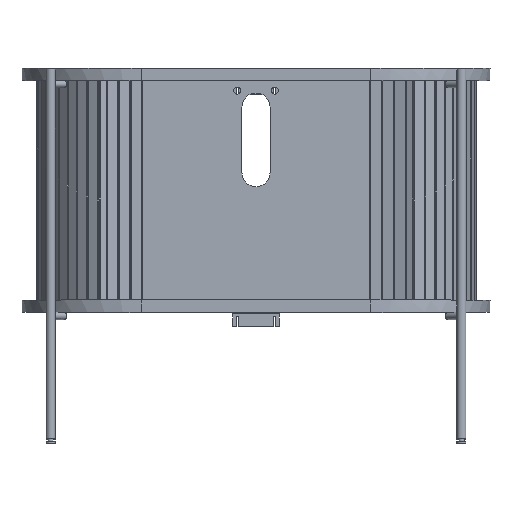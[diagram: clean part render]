
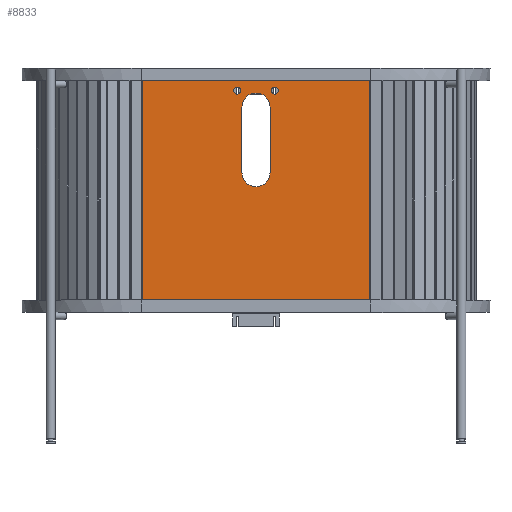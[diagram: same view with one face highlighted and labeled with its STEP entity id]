
A CAD part, top view. The second image highlights one B-rep face of the part: STEP entity #8833.
In plain terms, the highlighted planar face has unit normal (0, 0, 1).
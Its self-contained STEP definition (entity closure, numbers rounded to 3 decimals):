
#484 = VERTEX_POINT ( 'NONE', #1416 ) ;
#605 = AXIS2_PLACEMENT_3D ( 'NONE', #7255, #1532, #8621 ) ;
#683 = ORIENTED_EDGE ( 'NONE', *, *, #1986, .T. ) ;
#689 = EDGE_CURVE ( 'NONE', #8822, #8822, #6137, .T. ) ;
#1166 = CARTESIAN_POINT ( 'NONE',  ( 30., 180., 8. ) ) ;
#1273 = CARTESIAN_POINT ( 'NONE',  ( 243.5, -240., 8. ) ) ;
#1347 = ORIENTED_EDGE ( 'NONE', *, *, #1648, .T. ) ;
#1382 = CARTESIAN_POINT ( 'NONE',  ( 0., 0., 8. ) ) ;
#1400 = CARTESIAN_POINT ( 'NONE',  ( -243.5, 240., 8. ) ) ;
#1416 = CARTESIAN_POINT ( 'NONE',  ( 30., 180., 8. ) ) ;
#1462 = DIRECTION ( 'NONE',  ( 1., 0., 0. ) ) ;
#1492 = EDGE_CURVE ( 'NONE', #6338, #484, #9010, .T. ) ;
#1532 = DIRECTION ( 'NONE',  ( 0., 0., -1. ) ) ;
#1615 = DIRECTION ( 'NONE',  ( 0., -1., 0. ) ) ;
#1648 = EDGE_CURVE ( 'NONE', #2982, #9070, #5600, .T. ) ;
#1805 = DIRECTION ( 'NONE',  ( 1., 0., 0. ) ) ;
#1830 = DIRECTION ( 'NONE',  ( 0., 1., 0. ) ) ;
#1852 = CARTESIAN_POINT ( 'NONE',  ( -32.5, 215., 8. ) ) ;
#1888 = CIRCLE ( 'NONE', #2785, 30. ) ;
#1986 = EDGE_CURVE ( 'NONE', #2149, #2982, #2480, .T. ) ;
#2060 = VERTEX_POINT ( 'NONE', #5979 ) ;
#2082 = AXIS2_PLACEMENT_3D ( 'NONE', #8274, #3901, #2435 ) ;
#2122 = DIRECTION ( 'NONE',  ( -1., 0., 0. ) ) ;
#2149 = VERTEX_POINT ( 'NONE', #1273 ) ;
#2177 = LINE ( 'NONE', #5709, #3900 ) ;
#2184 = VERTEX_POINT ( 'NONE', #8559 ) ;
#2299 = CARTESIAN_POINT ( 'NONE',  ( -243.5, -240., 8. ) ) ;
#2387 = EDGE_CURVE ( 'NONE', #2184, #2149, #8745, .T. ) ;
#2435 = DIRECTION ( 'NONE',  ( -1., 0., 0. ) ) ;
#2480 = LINE ( 'NONE', #8315, #4932 ) ;
#2653 = CARTESIAN_POINT ( 'NONE',  ( -243.5, 240., 8. ) ) ;
#2783 = ORIENTED_EDGE ( 'NONE', *, *, #3384, .T. ) ;
#2785 = AXIS2_PLACEMENT_3D ( 'NONE', #4000, #4847, #4094 ) ;
#2928 = EDGE_CURVE ( 'NONE', #9070, #2184, #7826, .T. ) ;
#2965 = FACE_BOUND ( 'NONE', #3320, .T. ) ;
#2982 = VERTEX_POINT ( 'NONE', #6791 ) ;
#2985 = VECTOR ( 'NONE', #4254, 1000. ) ;
#3182 = ORIENTED_EDGE ( 'NONE', *, *, #2387, .T. ) ;
#3284 = CIRCLE ( 'NONE', #605, 7.5 ) ;
#3320 = EDGE_LOOP ( 'NONE', ( #2783 ) ) ;
#3377 = EDGE_CURVE ( 'NONE', #8114, #2060, #2177, .T. ) ;
#3384 = EDGE_CURVE ( 'NONE', #8299, #8299, #3284, .T. ) ;
#3526 = DIRECTION ( 'NONE',  ( 1., 0., 0. ) ) ;
#3668 = FACE_BOUND ( 'NONE', #8202, .T. ) ;
#3900 = VECTOR ( 'NONE', #1615, 1000. ) ;
#3901 = DIRECTION ( 'NONE',  ( 0., 0., -1. ) ) ;
#4000 = CARTESIAN_POINT ( 'NONE',  ( 0., 40., 8. ) ) ;
#4020 = DIRECTION ( 'NONE',  ( 0., 1., 0. ) ) ;
#4094 = DIRECTION ( 'NONE',  ( 1., 0., 0. ) ) ;
#4238 = DIRECTION ( 'NONE',  ( 0., 0., 1. ) ) ;
#4250 = ORIENTED_EDGE ( 'NONE', *, *, #8564, .F. ) ;
#4254 = DIRECTION ( 'NONE',  ( 0., -1., 0. ) ) ;
#4492 = DIRECTION ( 'NONE',  ( 0., 0., 1. ) ) ;
#4676 = CARTESIAN_POINT ( 'NONE',  ( 32.5, 215., 8. ) ) ;
#4758 = EDGE_LOOP ( 'NONE', ( #8976, #3182, #683, #1347 ) ) ;
#4847 = DIRECTION ( 'NONE',  ( 0., 0., 1. ) ) ;
#4932 = VECTOR ( 'NONE', #1830, 1000. ) ;
#4945 = FACE_OUTER_BOUND ( 'NONE', #4758, .T. ) ;
#5008 = CARTESIAN_POINT ( 'NONE',  ( 30., 40., 8. ) ) ;
#5084 = VECTOR ( 'NONE', #1462, 1000. ) ;
#5181 = CIRCLE ( 'NONE', #5328, 30. ) ;
#5191 = AXIS2_PLACEMENT_3D ( 'NONE', #1382, #4238, #3526 ) ;
#5328 = AXIS2_PLACEMENT_3D ( 'NONE', #8250, #4492, #1805 ) ;
#5600 = LINE ( 'NONE', #6308, #7209 ) ;
#5709 = CARTESIAN_POINT ( 'NONE',  ( -30., 180., 8. ) ) ;
#5913 = ORIENTED_EDGE ( 'NONE', *, *, #689, .T. ) ;
#5979 = CARTESIAN_POINT ( 'NONE',  ( -30., 40., 8. ) ) ;
#6137 = CIRCLE ( 'NONE', #2082, 7.5 ) ;
#6308 = CARTESIAN_POINT ( 'NONE',  ( -243.5, 240., 8. ) ) ;
#6338 = VERTEX_POINT ( 'NONE', #5008 ) ;
#6427 = ORIENTED_EDGE ( 'NONE', *, *, #3377, .F. ) ;
#6791 = CARTESIAN_POINT ( 'NONE',  ( 243.5, 240., 8. ) ) ;
#7209 = VECTOR ( 'NONE', #2122, 1000. ) ;
#7255 = CARTESIAN_POINT ( 'NONE',  ( -40., 215., 8. ) ) ;
#7622 = ORIENTED_EDGE ( 'NONE', *, *, #8004, .F. ) ;
#7807 = PLANE ( 'NONE',  #5191 ) ;
#7826 = LINE ( 'NONE', #1400, #2985 ) ;
#8004 = EDGE_CURVE ( 'NONE', #484, #8114, #5181, .T. ) ;
#8069 = ORIENTED_EDGE ( 'NONE', *, *, #1492, .F. ) ;
#8114 = VERTEX_POINT ( 'NONE', #8337 ) ;
#8202 = EDGE_LOOP ( 'NONE', ( #7622, #8069, #4250, #6427 ) ) ;
#8250 = CARTESIAN_POINT ( 'NONE',  ( 0., 180., 8. ) ) ;
#8274 = CARTESIAN_POINT ( 'NONE',  ( 40., 215., 8. ) ) ;
#8299 = VERTEX_POINT ( 'NONE', #1852 ) ;
#8315 = CARTESIAN_POINT ( 'NONE',  ( 243.5, 240., 8. ) ) ;
#8337 = CARTESIAN_POINT ( 'NONE',  ( -30., 180., 8. ) ) ;
#8523 = FACE_BOUND ( 'NONE', #9183, .T. ) ;
#8559 = CARTESIAN_POINT ( 'NONE',  ( -243.5, -240., 8. ) ) ;
#8564 = EDGE_CURVE ( 'NONE', #2060, #6338, #1888, .T. ) ;
#8621 = DIRECTION ( 'NONE',  ( 1., 0., 0. ) ) ;
#8714 = VECTOR ( 'NONE', #4020, 1000. ) ;
#8745 = LINE ( 'NONE', #2299, #5084 ) ;
#8822 = VERTEX_POINT ( 'NONE', #4676 ) ;
#8833 = ADVANCED_FACE ( 'NONE', ( #8523, #2965, #3668, #4945 ), #7807, .T. ) ;
#8976 = ORIENTED_EDGE ( 'NONE', *, *, #2928, .T. ) ;
#9010 = LINE ( 'NONE', #1166, #8714 ) ;
#9070 = VERTEX_POINT ( 'NONE', #2653 ) ;
#9183 = EDGE_LOOP ( 'NONE', ( #5913 ) ) ;
